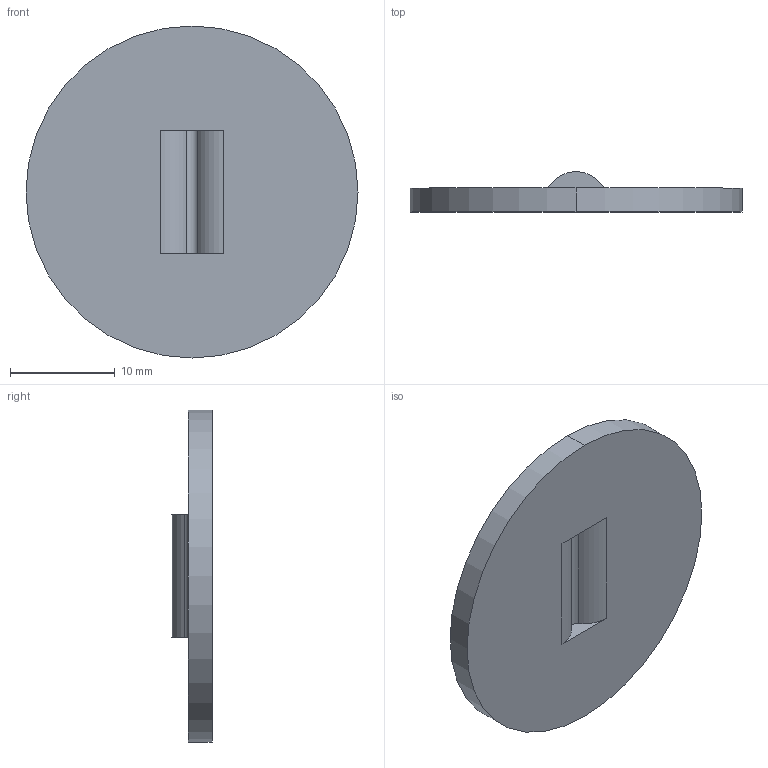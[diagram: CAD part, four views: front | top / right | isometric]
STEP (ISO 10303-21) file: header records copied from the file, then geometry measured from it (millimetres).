
FILE_DESCRIPTION (( 'STEP AP214' ), '1' );
FILE_NAME ('922686-10.STEP', '2024-11-18T11:39:29', ( 'Admin' ), ( 'Microsoft' ), 'SwSTEP 2.0', 'SolidWorks 2024', '' );
FILE_SCHEMA (( 'AUTOMOTIVE_DESIGN' ));
Length unit declared in the file: inch
Products named in the file (1): 922686-10
Bounding box: 31.75 x 3.85 x 31.75 mm (x, y, z)
Volume: 1837.8 mm3; surface area: 1854.8 mm2
Topology: 1 solids, 1 shells, 14 faces, 30 edges, 20 vertices
Faces by surface type: cylinder 8, plane 6
Entity records: 417 total; most frequent: DIRECTION 76, CARTESIAN_POINT 65, ORIENTED_EDGE 60, AXIS2_PLACEMENT_3D 31, EDGE_CURVE 30, VERTEX_POINT 20, CIRCLE 16, EDGE_LOOP 16
